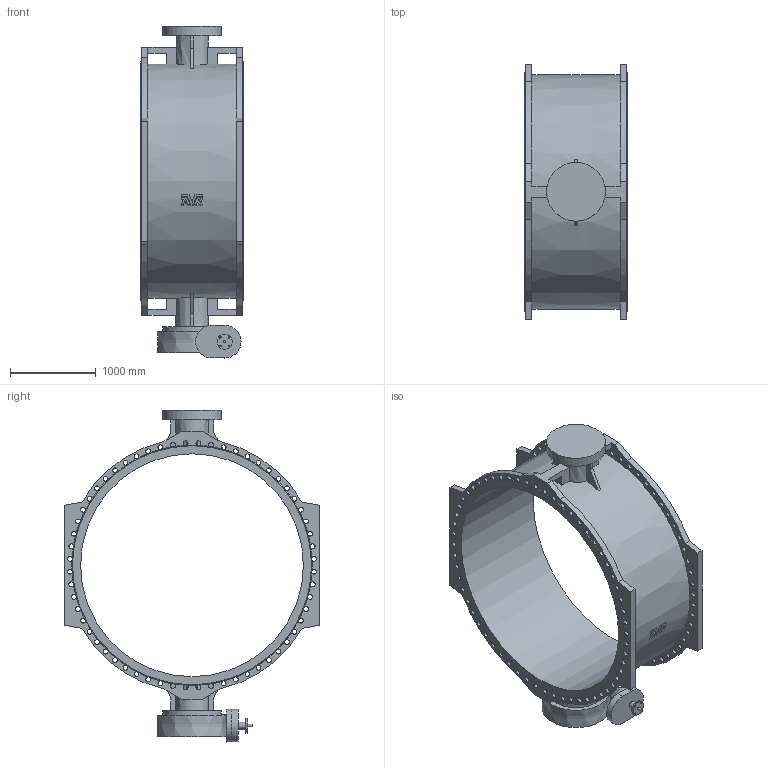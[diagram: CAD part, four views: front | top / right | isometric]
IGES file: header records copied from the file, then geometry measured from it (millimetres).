
Start section: SolidWorks IGES file using analytic representation for surfaces
Global section: file name: \\avksan2\techshare\PBM outline export from Enovia\O_756_102_DN2600_0XX020XX_REV02.igs; native system: SolidWorks 2019; preprocessor: SolidWorks 2019; author: pbm; date: 210809.090445; units: millimetre
Bounding box: 1190 x 2980 x 3873 mm (x, y, z)
Surface area: 31936011.5 mm2 (no closed solid volume)
Topology: 0 solids, 0 shells, 268 faces, 1998 edges, 1859 vertices
Faces by surface type: revolution 155, bspline 113
